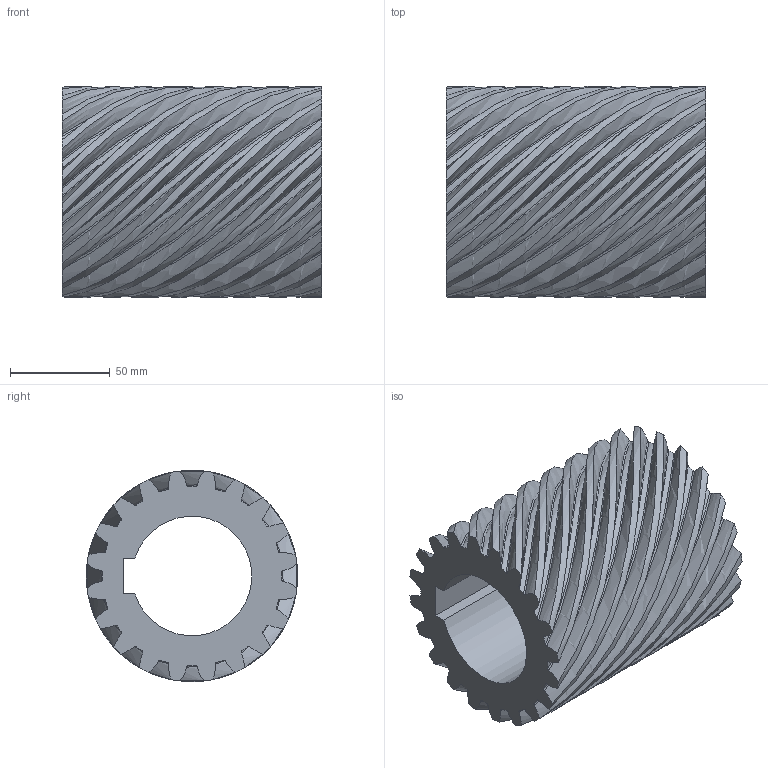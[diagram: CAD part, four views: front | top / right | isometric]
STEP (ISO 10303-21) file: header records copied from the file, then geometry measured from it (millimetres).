
FILE_DESCRIPTION(/* description */ (''),/* implementation_level */ '2;1');
FILE_NAME(/* name */ 'G:\YandexDisk\Работа\Inventor\Универ\ОАП\Лабораторные работы\ЛР6 Создание сборок\Редуктор\stp\Червяк 2.stp',/* time_stamp */ '2023-11-17T06:38:11+03:00',/* author */ ('34740'),/* organization */ (''),/* preprocessor_version */ 'ST-DEVELOPER v18.1',/* originating_system */ 'Autodesk Inventor 2022',/* authorisation */ '');
FILE_SCHEMA (('AUTOMOTIVE_DESIGN { 1 0 10303 214 3 1 1 }'));
Length unit declared in the file: millimetre
Products named in the file (1): Червяк 2
Bounding box: 130 x 105.98 x 105.99 mm (x, y, z)
Volume: 610363.4 mm3; surface area: 117481.4 mm2
Topology: 1 solids, 1 shells, 126 faces, 372 edges, 248 vertices
Faces by surface type: bspline 80, cylinder 41, plane 5
Entity records: 43616 total; most frequent: CARTESIAN_POINT 40624, ORIENTED_EDGE 744, DIRECTION 588, EDGE_CURVE 372, AXIS2_PLACEMENT_3D 289, VERTEX_POINT 248, CIRCLE 242, EDGE_LOOP 128
